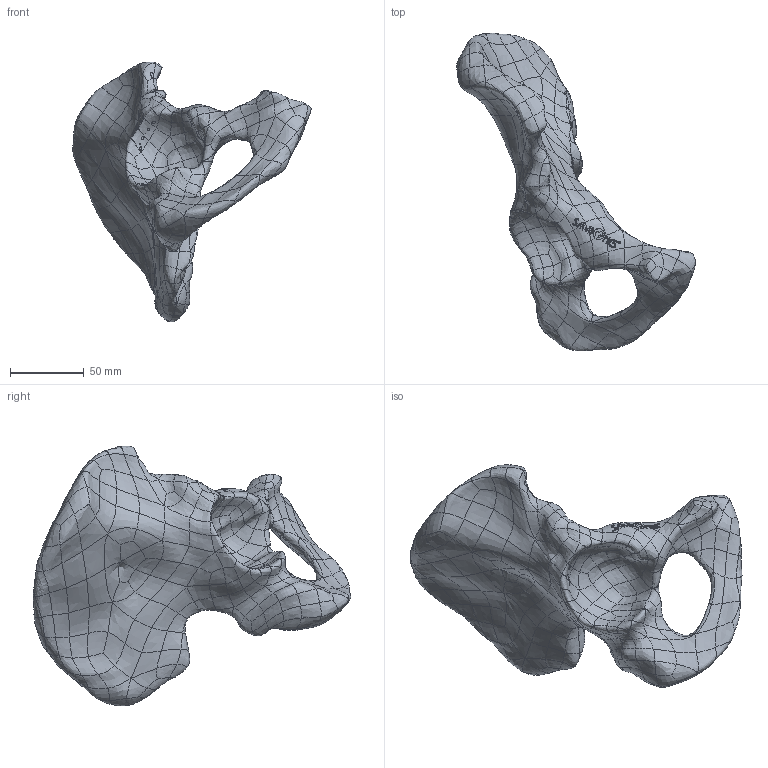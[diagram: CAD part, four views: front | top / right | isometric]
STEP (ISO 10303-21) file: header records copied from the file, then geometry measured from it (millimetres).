
FILE_DESCRIPTION (( 'STEP AP203' ), '1' );
FILE_NAME ('3409.STEP', '2025-06-11T20:13:44', ( '' ), ( '' ), 'SwSTEP 2.0', 'SolidWorks 2024', '' );
FILE_SCHEMA (( 'CONFIG_CONTROL_DESIGN' ));
Length unit declared in the file: millimetre
Products named in the file (1): 3409
Bounding box: 161.79 x 215.48 x 176.23 mm (x, y, z)
Volume: 456212.7 mm3; surface area: 71810.4 mm2
Topology: 1 solids, 1 shells, 801 faces, 1779 edges, 993 vertices
Faces by surface type: bspline 799, plane 2
Entity records: 88039 total; most frequent: CARTESIAN_POINT 76606, ORIENTED_EDGE 3558, B_SPLINE_CURVE_WITH_KNOTS 1779, EDGE_CURVE 1779, VERTEX_POINT 993, EDGE_LOOP 816, ADVANCED_FACE 801, FACE_OUTER_BOUND 801
